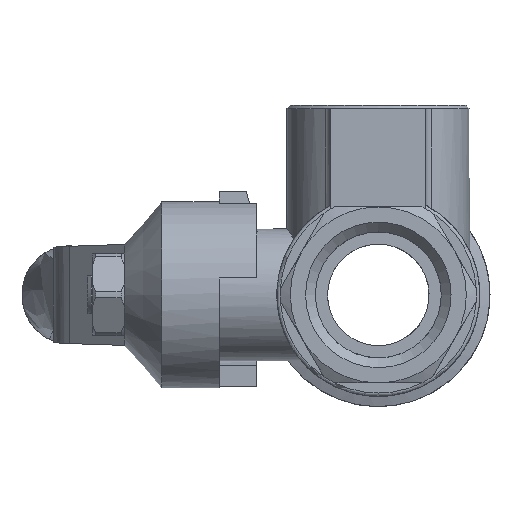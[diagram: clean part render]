
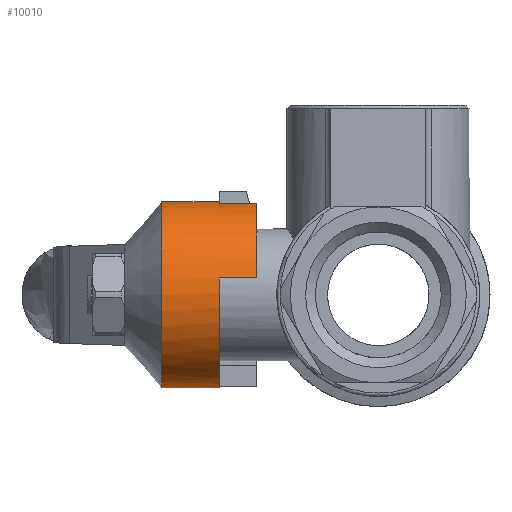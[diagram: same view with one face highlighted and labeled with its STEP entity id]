
A CAD part, left-side view. The second image highlights one B-rep face of the part: STEP entity #10010.
In plain terms, the highlighted cylindrical face has radius 13.75 mm (diameter 27.5 mm), a full revolution.
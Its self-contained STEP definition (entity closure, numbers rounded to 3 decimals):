
#454=ELLIPSE('',#10778,19.445,13.75);
#455=ELLIPSE('',#10780,19.445,13.75);
#691=CIRCLE('',#10717,13.75);
#692=CIRCLE('',#10721,13.75);
#694=CIRCLE('',#10724,13.75);
#695=CIRCLE('',#10725,13.75);
#699=CIRCLE('',#10730,13.75);
#710=CIRCLE('',#10753,13.75);
#727=CIRCLE('',#10777,13.75);
#728=CIRCLE('',#10779,13.75);
#1094=CYLINDRICAL_SURFACE('',#10776,13.75);
#1460=FACE_OUTER_BOUND('',#2047,.T.);
#2047=EDGE_LOOP('',(#7599,#7600,#7601,#7602,#7603,#7604,#7605,#7606,#7607,
#7608,#7609,#7610,#7611,#7612,#7613,#7614,#7615,#7616));
#2825=LINE('',#16698,#3520);
#2831=LINE('',#16710,#3526);
#2835=LINE('',#16722,#3530);
#2837=LINE('',#16728,#3532);
#2842=LINE('',#16754,#3537);
#2849=LINE('',#16777,#3544);
#2860=LINE('',#16863,#3555);
#3520=VECTOR('',#12544,10.);
#3526=VECTOR('',#12552,10.);
#3530=VECTOR('',#12564,10.);
#3532=VECTOR('',#12568,10.);
#3537=VECTOR('',#12597,10.);
#3544=VECTOR('',#12612,10.);
#3555=VECTOR('',#12709,13.75);
#4237=VERTEX_POINT('',#16694);
#4239=VERTEX_POINT('',#16697);
#4242=VERTEX_POINT('',#16704);
#4244=VERTEX_POINT('',#16708);
#4246=VERTEX_POINT('',#16716);
#4248=VERTEX_POINT('',#16720);
#4249=VERTEX_POINT('',#16724);
#4251=VERTEX_POINT('',#16727);
#4253=VERTEX_POINT('',#16736);
#4254=VERTEX_POINT('',#16738);
#4258=VERTEX_POINT('',#16748);
#4259=VERTEX_POINT('',#16752);
#4260=VERTEX_POINT('',#16753);
#4267=VERTEX_POINT('',#16773);
#4269=VERTEX_POINT('',#16776);
#4298=VERTEX_POINT('',#16861);
#5456=EDGE_CURVE('',#4237,#4239,#2825,.T.);
#5462=EDGE_CURVE('',#4242,#4244,#2831,.T.);
#5464=EDGE_CURVE('',#4239,#4244,#691,.T.);
#5468=EDGE_CURVE('',#4246,#4248,#2835,.T.);
#5470=EDGE_CURVE('',#4249,#4251,#2837,.T.);
#5473=EDGE_CURVE('',#4251,#4248,#692,.T.);
#5475=EDGE_CURVE('',#4253,#4242,#694,.T.);
#5476=EDGE_CURVE('',#4254,#4253,#695,.T.);
#5482=EDGE_CURVE('',#4249,#4258,#699,.T.);
#5483=EDGE_CURVE('',#4259,#4260,#2842,.T.);
#5494=EDGE_CURVE('',#4267,#4269,#2849,.T.);
#5518=EDGE_CURVE('',#4237,#4246,#710,.T.);
#5538=EDGE_CURVE('',#4269,#4259,#727,.T.);
#5539=EDGE_CURVE('',#4267,#4298,#454,.T.);
#5540=EDGE_CURVE('',#4298,#4253,#2860,.T.);
#5541=EDGE_CURVE('',#4254,#4258,#728,.T.);
#5542=EDGE_CURVE('',#4298,#4260,#455,.T.);
#7599=ORIENTED_EDGE('',*,*,#5538,.F.);
#7600=ORIENTED_EDGE('',*,*,#5494,.F.);
#7601=ORIENTED_EDGE('',*,*,#5539,.T.);
#7602=ORIENTED_EDGE('',*,*,#5540,.T.);
#7603=ORIENTED_EDGE('',*,*,#5475,.T.);
#7604=ORIENTED_EDGE('',*,*,#5462,.T.);
#7605=ORIENTED_EDGE('',*,*,#5464,.F.);
#7606=ORIENTED_EDGE('',*,*,#5456,.F.);
#7607=ORIENTED_EDGE('',*,*,#5518,.T.);
#7608=ORIENTED_EDGE('',*,*,#5468,.T.);
#7609=ORIENTED_EDGE('',*,*,#5473,.F.);
#7610=ORIENTED_EDGE('',*,*,#5470,.F.);
#7611=ORIENTED_EDGE('',*,*,#5482,.T.);
#7612=ORIENTED_EDGE('',*,*,#5541,.F.);
#7613=ORIENTED_EDGE('',*,*,#5476,.T.);
#7614=ORIENTED_EDGE('',*,*,#5540,.F.);
#7615=ORIENTED_EDGE('',*,*,#5542,.T.);
#7616=ORIENTED_EDGE('',*,*,#5483,.F.);
#10010=ADVANCED_FACE('',(#1460),#1094,.T.);
#10717=AXIS2_PLACEMENT_3D('',#16713,#12557,#12558);
#10721=AXIS2_PLACEMENT_3D('',#16733,#12573,#12574);
#10724=AXIS2_PLACEMENT_3D('',#16737,#12579,#12580);
#10725=AXIS2_PLACEMENT_3D('',#16739,#12581,#12582);
#10730=AXIS2_PLACEMENT_3D('',#16750,#12593,#12594);
#10753=AXIS2_PLACEMENT_3D('',#16821,#12654,#12655);
#10776=AXIS2_PLACEMENT_3D('',#16859,#12703,#12704);
#10777=AXIS2_PLACEMENT_3D('',#16860,#12705,#12706);
#10778=AXIS2_PLACEMENT_3D('',#16862,#12707,#12708);
#10779=AXIS2_PLACEMENT_3D('',#16864,#12710,#12711);
#10780=AXIS2_PLACEMENT_3D('',#16865,#12712,#12713);
#12544=DIRECTION('',(0.,-1.,0.));
#12552=DIRECTION('',(0.,-1.,0.));
#12557=DIRECTION('center_axis',(0.,-1.,0.));
#12558=DIRECTION('ref_axis',(0.182,0.,-0.983));
#12564=DIRECTION('',(0.,-1.,0.));
#12568=DIRECTION('',(0.,-1.,0.));
#12573=DIRECTION('center_axis',(0.,-1.,0.));
#12574=DIRECTION('ref_axis',(-0.182,0.,0.983));
#12579=DIRECTION('center_axis',(0.,1.,0.));
#12580=DIRECTION('ref_axis',(1.,0.,0.));
#12581=DIRECTION('center_axis',(0.,1.,0.));
#12582=DIRECTION('ref_axis',(1.,0.,0.));
#12593=DIRECTION('center_axis',(0.,1.,0.));
#12594=DIRECTION('ref_axis',(1.,0.,0.));
#12597=DIRECTION('',(0.,1.,0.));
#12612=DIRECTION('',(0.,-1.,0.));
#12654=DIRECTION('center_axis',(0.,1.,0.));
#12655=DIRECTION('ref_axis',(1.,0.,0.));
#12703=DIRECTION('center_axis',(0.,1.,0.));
#12704=DIRECTION('ref_axis',(-1.,0.,0.));
#12705=DIRECTION('center_axis',(0.,1.,0.));
#12706=DIRECTION('ref_axis',(1.,0.,0.));
#12707=DIRECTION('center_axis',(0.707,-0.707,0.));
#12708=DIRECTION('ref_axis',(-0.707,-0.707,0.));
#12709=DIRECTION('',(0.,-1.,0.));
#12710=DIRECTION('center_axis',(0.,-1.,0.));
#12711=DIRECTION('ref_axis',(-1.,0.,0.));
#12712=DIRECTION('center_axis',(0.707,-0.707,0.));
#12713=DIRECTION('ref_axis',(-0.707,-0.707,0.));
#16694=CARTESIAN_POINT('',(2.5,23.5,-13.521));
#16697=CARTESIAN_POINT('',(2.5,18.,-13.521));
#16698=CARTESIAN_POINT('',(2.5,23.5,-13.521));
#16704=CARTESIAN_POINT('',(13.521,23.5,-2.5));
#16708=CARTESIAN_POINT('',(13.521,18.,-2.5));
#16710=CARTESIAN_POINT('',(13.521,23.5,-2.5));
#16713=CARTESIAN_POINT('Origin',(0.,18.,
0.));
#16716=CARTESIAN_POINT('',(-13.521,23.5,2.5));
#16720=CARTESIAN_POINT('',(-13.521,18.,2.5));
#16722=CARTESIAN_POINT('',(-13.521,23.5,2.5));
#16724=CARTESIAN_POINT('',(-2.5,23.5,13.521));
#16727=CARTESIAN_POINT('',(-2.5,18.,13.521));
#16728=CARTESIAN_POINT('',(-2.5,23.5,13.521));
#16733=CARTESIAN_POINT('Origin',(0.,18.,
0.));
#16736=CARTESIAN_POINT('',(13.75,23.5,0.));
#16737=CARTESIAN_POINT('Origin',(0.,23.5,
0.));
#16738=CARTESIAN_POINT('',(2.323,23.5,13.552));
#16739=CARTESIAN_POINT('Origin',(0.,23.5,
0.));
#16748=CARTESIAN_POINT('',(-2.323,23.5,13.552));
#16750=CARTESIAN_POINT('Origin',(0.,23.5,
0.));
#16752=CARTESIAN_POINT('',(11.632,32.,7.331));
#16753=CARTESIAN_POINT('',(11.632,32.166,7.331));
#16754=CARTESIAN_POINT('',(11.632,32.,7.331));
#16773=CARTESIAN_POINT('',(11.632,32.166,-7.331));
#16776=CARTESIAN_POINT('',(11.632,32.,-7.331));
#16777=CARTESIAN_POINT('',(11.632,32.,-7.331));
#16821=CARTESIAN_POINT('Origin',(0.,23.5,
0.));
#16859=CARTESIAN_POINT('Origin',(0.,27.75,
0.));
#16860=CARTESIAN_POINT('Origin',(0.,32.,
0.));
#16861=CARTESIAN_POINT('',(13.75,34.284,0.));
#16862=CARTESIAN_POINT('Origin',(0.,20.534,
0.));
#16863=CARTESIAN_POINT('',(13.75,27.75,0.));
#16864=CARTESIAN_POINT('Origin',(0.,23.5,
0.));
#16865=CARTESIAN_POINT('Origin',(0.,20.534,
0.));
